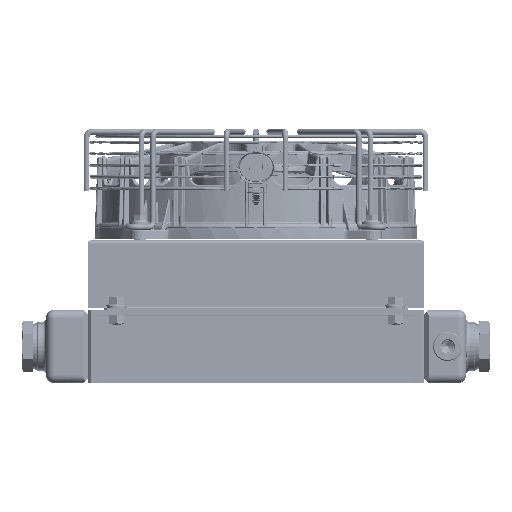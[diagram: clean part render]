
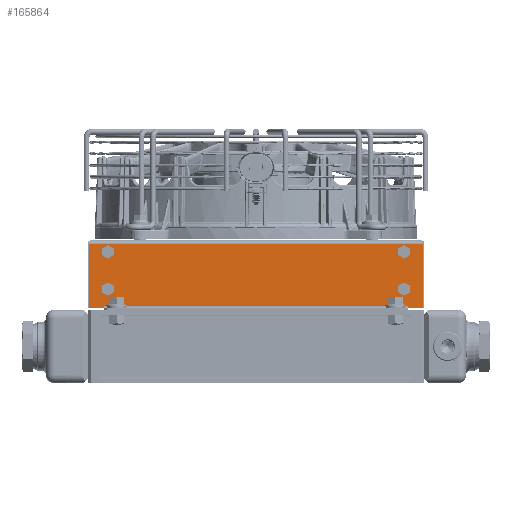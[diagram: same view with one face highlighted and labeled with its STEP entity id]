
A CAD part, front view. The second image highlights one B-rep face of the part: STEP entity #165864.
In plain terms, the highlighted planar face has unit normal (0, -1, 0).
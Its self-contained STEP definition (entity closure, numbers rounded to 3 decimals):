
#3015 = VERTEX_POINT ( 'NONE', #161553 ) ;
#3308 = DIRECTION ( 'NONE',  ( 0., 0., -1. ) ) ;
#3949 = DIRECTION ( 'NONE',  ( 0., 0., -1. ) ) ;
#4867 = DIRECTION ( 'NONE',  ( 0., 0., -1. ) ) ;
#6613 = DIRECTION ( 'NONE',  ( 0., 0., -1. ) ) ;
#10781 = EDGE_CURVE ( 'NONE', #511111, #177605, #178809, .T. ) ;
#26972 = VECTOR ( 'NONE', #378135, 1000. ) ;
#27493 = EDGE_CURVE ( 'NONE', #99888, #402965, #400073, .T. ) ;
#27670 = CARTESIAN_POINT ( 'NONE',  ( -143.429, -146., 58.5 ) ) ;
#29980 = CIRCLE ( 'NONE', #38306, 3. ) ;
#30329 = EDGE_LOOP ( 'NONE', ( #222394, #512401 ) ) ;
#35163 = FACE_BOUND ( 'NONE', #143571, .T. ) ;
#37973 = CARTESIAN_POINT ( 'NONE',  ( 143.429, -146., 0. ) ) ;
#38306 = AXIS2_PLACEMENT_3D ( 'NONE', #127866, #125259, #368884 ) ;
#46544 = VECTOR ( 'NONE', #244173, 1000. ) ;
#53754 = ORIENTED_EDGE ( 'NONE', *, *, #289100, .T. ) ;
#55110 = LINE ( 'NONE', #301276, #26972 ) ;
#58231 = EDGE_LOOP ( 'NONE', ( #243962, #448882 ) ) ;
#61616 = DIRECTION ( 'NONE',  ( 0., 0., 1. ) ) ;
#64710 = ORIENTED_EDGE ( 'NONE', *, *, #107445, .F. ) ;
#65168 = VERTEX_POINT ( 'NONE', #286700 ) ;
#72918 = CARTESIAN_POINT ( 'NONE',  ( 143.429, -146., 55.5 ) ) ;
#73183 = CARTESIAN_POINT ( 'NONE',  ( 127.5, -146., 48.5 ) ) ;
#75269 = VERTEX_POINT ( 'NONE', #130402 ) ;
#80287 = ORIENTED_EDGE ( 'NONE', *, *, #10781, .T. ) ;
#83544 = EDGE_CURVE ( 'NONE', #250904, #375244, #85006, .T. ) ;
#85006 = CIRCLE ( 'NONE', #423265, 3. ) ;
#91343 = ORIENTED_EDGE ( 'NONE', *, *, #291470, .T. ) ;
#93617 = CARTESIAN_POINT ( 'NONE',  ( 131., -146., 1.5 ) ) ;
#99888 = VERTEX_POINT ( 'NONE', #488331 ) ;
#101309 = CARTESIAN_POINT ( 'NONE',  ( 143.429, -146., 58.5 ) ) ;
#105289 = VERTEX_POINT ( 'NONE', #276393 ) ;
#107445 = EDGE_CURVE ( 'NONE', #242484, #493095, #164753, .T. ) ;
#125259 = DIRECTION ( 'NONE',  ( 0., -1., 0. ) ) ;
#127866 = CARTESIAN_POINT ( 'NONE',  ( 127.5, -146., 48.5 ) ) ;
#130402 = CARTESIAN_POINT ( 'NONE',  ( -131., -146., 0. ) ) ;
#131412 = EDGE_LOOP ( 'NONE', ( #394221, #440899 ) ) ;
#135813 = VERTEX_POINT ( 'NONE', #474099 ) ;
#141299 = CIRCLE ( 'NONE', #200660, 3. ) ;
#143571 = EDGE_LOOP ( 'NONE', ( #203038, #320064 ) ) ;
#158699 = EDGE_CURVE ( 'NONE', #294596, #511111, #464008, .T. ) ;
#161553 = CARTESIAN_POINT ( 'NONE',  ( 127.5, -146., 45.5 ) ) ;
#164151 = CARTESIAN_POINT ( 'NONE',  ( 127.5, -146., 19.5 ) ) ;
#164714 = CARTESIAN_POINT ( 'NONE',  ( -145., -146., 58.5 ) ) ;
#164753 = LINE ( 'NONE', #487768, #177665 ) ;
#165864 = ADVANCED_FACE ( 'NONE', ( #241649, #522248, #400525, #487727, #35163 ), #397906, .F. ) ;
#166133 = VECTOR ( 'NONE', #388506, 1000. ) ;
#171497 = DIRECTION ( 'NONE',  ( 0., -1., 0. ) ) ;
#177605 = VERTEX_POINT ( 'NONE', #289977 ) ;
#177665 = VECTOR ( 'NONE', #286589, 1000. ) ;
#178809 = LINE ( 'NONE', #459455, #310893 ) ;
#188706 = AXIS2_PLACEMENT_3D ( 'NONE', #365025, #171497, #4867 ) ;
#194904 = DIRECTION ( 'NONE',  ( 0., -1., 0. ) ) ;
#195879 = ORIENTED_EDGE ( 'NONE', *, *, #158699, .T. ) ;
#200660 = AXIS2_PLACEMENT_3D ( 'NONE', #408357, #241679, #3308 ) ;
#202384 = EDGE_CURVE ( 'NONE', #402965, #99888, #397720, .T. ) ;
#203038 = ORIENTED_EDGE ( 'NONE', *, *, #83544, .F. ) ;
#210369 = AXIS2_PLACEMENT_3D ( 'NONE', #284624, #406419, #3949 ) ;
#212488 = AXIS2_PLACEMENT_3D ( 'NONE', #73183, #194904, #517905 ) ;
#221191 = DIRECTION ( 'NONE',  ( -1., 0., 0. ) ) ;
#222394 = ORIENTED_EDGE ( 'NONE', *, *, #413423, .F. ) ;
#233584 = VECTOR ( 'NONE', #61616, 1000. ) ;
#236206 = CARTESIAN_POINT ( 'NONE',  ( -127.5, -146., 48.5 ) ) ;
#237098 = AXIS2_PLACEMENT_3D ( 'NONE', #369378, #287267, #6613 ) ;
#241649 = FACE_BOUND ( 'NONE', #131412, .T. ) ;
#241679 = DIRECTION ( 'NONE',  ( 0., -1., 0. ) ) ;
#242484 = VERTEX_POINT ( 'NONE', #93617 ) ;
#243962 = ORIENTED_EDGE ( 'NONE', *, *, #281000, .F. ) ;
#244173 = DIRECTION ( 'NONE',  ( 1., 0., 0. ) ) ;
#246510 = CARTESIAN_POINT ( 'NONE',  ( 127.5, -146., 13.5 ) ) ;
#250904 = VERTEX_POINT ( 'NONE', #275576 ) ;
#269393 = CARTESIAN_POINT ( 'NONE',  ( 127.5, -146., 16.5 ) ) ;
#271542 = CIRCLE ( 'NONE', #212488, 3. ) ;
#275576 = CARTESIAN_POINT ( 'NONE',  ( -127.5, -146., 45.5 ) ) ;
#275596 = CIRCLE ( 'NONE', #360277, 3. ) ;
#275942 = DIRECTION ( 'NONE',  ( 0., 0., -1. ) ) ;
#276393 = CARTESIAN_POINT ( 'NONE',  ( 127.5, -146., 51.5 ) ) ;
#276842 = CARTESIAN_POINT ( 'NONE',  ( -131., -146., 1.5 ) ) ;
#278656 = CARTESIAN_POINT ( 'NONE',  ( -145., -146., 0. ) ) ;
#281000 = EDGE_CURVE ( 'NONE', #3015, #105289, #271542, .T. ) ;
#284624 = CARTESIAN_POINT ( 'NONE',  ( -127.5, -146., 48.5 ) ) ;
#286556 = DIRECTION ( 'NONE',  ( 0., 0., 1. ) ) ;
#286589 = DIRECTION ( 'NONE',  ( -1., 0., 0. ) ) ;
#286700 = CARTESIAN_POINT ( 'NONE',  ( 131., -146., 0. ) ) ;
#287267 = DIRECTION ( 'NONE',  ( 0., -1., 0. ) ) ;
#289100 = EDGE_CURVE ( 'NONE', #65168, #294596, #440093, .T. ) ;
#289977 = CARTESIAN_POINT ( 'NONE',  ( -143.429, -146., 55.5 ) ) ;
#291048 = VECTOR ( 'NONE', #313618, 1000. ) ;
#291470 = EDGE_CURVE ( 'NONE', #177605, #135813, #514797, .T. ) ;
#294596 = VERTEX_POINT ( 'NONE', #37973 ) ;
#301276 = CARTESIAN_POINT ( 'NONE',  ( -145., -146., 0. ) ) ;
#308513 = LINE ( 'NONE', #398381, #478121 ) ;
#310893 = VECTOR ( 'NONE', #221191, 1000. ) ;
#311440 = EDGE_CURVE ( 'NONE', #105289, #3015, #29980, .T. ) ;
#313618 = DIRECTION ( 'NONE',  ( 0., 0., -1. ) ) ;
#320064 = ORIENTED_EDGE ( 'NONE', *, *, #339847, .F. ) ;
#326784 = CARTESIAN_POINT ( 'NONE',  ( -127.5, -146., 51.5 ) ) ;
#339847 = EDGE_CURVE ( 'NONE', #375244, #250904, #421648, .T. ) ;
#342221 = CARTESIAN_POINT ( 'NONE',  ( -127.5, -146., 19.5 ) ) ;
#350912 = EDGE_CURVE ( 'NONE', #135813, #75269, #55110, .T. ) ;
#351461 = DIRECTION ( 'NONE',  ( 0., -1., 0. ) ) ;
#356094 = DIRECTION ( 'NONE',  ( 0., 0., 1. ) ) ;
#360277 = AXIS2_PLACEMENT_3D ( 'NONE', #269393, #351461, #480979 ) ;
#365025 = CARTESIAN_POINT ( 'NONE',  ( -127.5, -146., 16.5 ) ) ;
#366054 = DIRECTION ( 'NONE',  ( 0., 1., 0. ) ) ;
#368884 = DIRECTION ( 'NONE',  ( 0., 0., -1. ) ) ;
#368898 = EDGE_CURVE ( 'NONE', #65168, #242484, #308513, .T. ) ;
#369378 = CARTESIAN_POINT ( 'NONE',  ( -127.5, -146., 16.5 ) ) ;
#371291 = EDGE_LOOP ( 'NONE', ( #481183, #53754, #195879, #80287, #91343, #387014, #414566, #64710 ) ) ;
#375244 = VERTEX_POINT ( 'NONE', #326784 ) ;
#378135 = DIRECTION ( 'NONE',  ( 1., 0., 0. ) ) ;
#387014 = ORIENTED_EDGE ( 'NONE', *, *, #350912, .T. ) ;
#388506 = DIRECTION ( 'NONE',  ( 0., 0., -1. ) ) ;
#391116 = LINE ( 'NONE', #396331, #166133 ) ;
#394221 = ORIENTED_EDGE ( 'NONE', *, *, #27493, .F. ) ;
#396331 = CARTESIAN_POINT ( 'NONE',  ( -131., -146., 1.5 ) ) ;
#397720 = CIRCLE ( 'NONE', #237098, 3. ) ;
#397906 = PLANE ( 'NONE',  #420946 ) ;
#398381 = CARTESIAN_POINT ( 'NONE',  ( 131., -146., 0. ) ) ;
#400073 = CIRCLE ( 'NONE', #188706, 3. ) ;
#400525 = FACE_OUTER_BOUND ( 'NONE', #371291, .T. ) ;
#401037 = EDGE_CURVE ( 'NONE', #451564, #419229, #141299, .T. ) ;
#402965 = VERTEX_POINT ( 'NONE', #342221 ) ;
#406419 = DIRECTION ( 'NONE',  ( 0., -1., 0. ) ) ;
#408357 = CARTESIAN_POINT ( 'NONE',  ( 127.5, -146., 16.5 ) ) ;
#413423 = EDGE_CURVE ( 'NONE', #419229, #451564, #275596, .T. ) ;
#414566 = ORIENTED_EDGE ( 'NONE', *, *, #458251, .F. ) ;
#419229 = VERTEX_POINT ( 'NONE', #246510 ) ;
#420946 = AXIS2_PLACEMENT_3D ( 'NONE', #164714, #366054, #286556 ) ;
#421648 = CIRCLE ( 'NONE', #210369, 3. ) ;
#423265 = AXIS2_PLACEMENT_3D ( 'NONE', #236206, #429532, #275942 ) ;
#429532 = DIRECTION ( 'NONE',  ( 0., -1., 0. ) ) ;
#440093 = LINE ( 'NONE', #278656, #46544 ) ;
#440899 = ORIENTED_EDGE ( 'NONE', *, *, #202384, .F. ) ;
#448882 = ORIENTED_EDGE ( 'NONE', *, *, #311440, .F. ) ;
#451564 = VERTEX_POINT ( 'NONE', #164151 ) ;
#458251 = EDGE_CURVE ( 'NONE', #493095, #75269, #391116, .T. ) ;
#459455 = CARTESIAN_POINT ( 'NONE',  ( -143.429, -146., 55.5 ) ) ;
#464008 = LINE ( 'NONE', #101309, #233584 ) ;
#474099 = CARTESIAN_POINT ( 'NONE',  ( -143.429, -146., 0. ) ) ;
#478121 = VECTOR ( 'NONE', #356094, 1000. ) ;
#480979 = DIRECTION ( 'NONE',  ( 0., 0., -1. ) ) ;
#481183 = ORIENTED_EDGE ( 'NONE', *, *, #368898, .F. ) ;
#487727 = FACE_BOUND ( 'NONE', #30329, .T. ) ;
#487768 = CARTESIAN_POINT ( 'NONE',  ( 131., -146., 1.5 ) ) ;
#488331 = CARTESIAN_POINT ( 'NONE',  ( -127.5, -146., 13.5 ) ) ;
#493095 = VERTEX_POINT ( 'NONE', #276842 ) ;
#511111 = VERTEX_POINT ( 'NONE', #72918 ) ;
#512401 = ORIENTED_EDGE ( 'NONE', *, *, #401037, .F. ) ;
#514797 = LINE ( 'NONE', #27670, #291048 ) ;
#517905 = DIRECTION ( 'NONE',  ( 0., 0., -1. ) ) ;
#522248 = FACE_BOUND ( 'NONE', #58231, .T. ) ;
